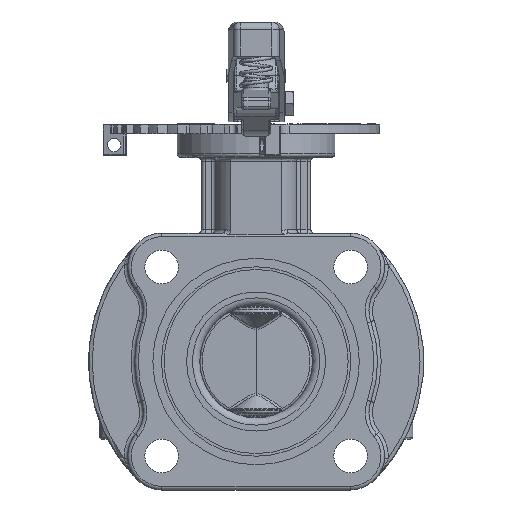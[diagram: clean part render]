
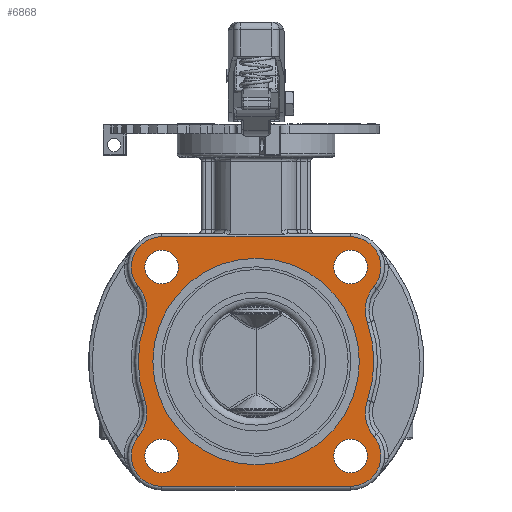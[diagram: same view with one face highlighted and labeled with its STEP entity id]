
A CAD part, left-side view. The second image highlights one B-rep face of the part: STEP entity #6868.
In plain terms, the highlighted planar face has unit normal (-1, 0, 0).
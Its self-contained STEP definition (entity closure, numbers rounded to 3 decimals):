
#3099=CARTESIAN_POINT('',(-14.5,48.515,-30.914));
#3100=VERTEX_POINT('',#3099);
#3108=CARTESIAN_POINT('',(-14.5,45.809,-15.931));
#3109=VERTEX_POINT('',#3108);
#3110=CARTESIAN_POINT('',(-14.5,60.449,-21.023));
#3111=DIRECTION('',(-1.0,0.0,0.0));
#3112=DIRECTION('',(0.0,-0.984,-0.178));
#3113=AXIS2_PLACEMENT_3D('',#3110,#3111,#3112);
#3114=CIRCLE('',#3113,15.5);
#3115=EDGE_CURVE('',#3100,#3109,#3114,.T.);
#3141=CARTESIAN_POINT('',(-14.5,38.891,-51.391));
#3142=VERTEX_POINT('',#3141);
#3150=CARTESIAN_POINT('',(-14.5,38.891,-38.891));
#3151=DIRECTION('',(1.0,0.0,0.0));
#3152=DIRECTION('',(0.0,0.905,-0.425));
#3153=AXIS2_PLACEMENT_3D('',#3150,#3151,#3152);
#3154=CIRCLE('',#3153,12.5);
#3155=EDGE_CURVE('',#3142,#3100,#3154,.T.);
#3167=CARTESIAN_POINT('',(-14.5,-38.891,-51.391));
#3168=VERTEX_POINT('',#3167);
#3176=CARTESIAN_POINT('',(-14.5,-38.891,-51.391));
#3177=DIRECTION('',(0.0,1.0,0.0));
#3178=VECTOR('',#3177,77.782);
#3179=LINE('',#3176,#3178);
#3180=EDGE_CURVE('',#3168,#3142,#3179,.T.);
#3192=CARTESIAN_POINT('',(-14.5,-48.515,-30.914));
#3193=VERTEX_POINT('',#3192);
#3201=CARTESIAN_POINT('',(-14.5,-38.891,-38.891));
#3202=DIRECTION('',(1.0,0.0,0.0));
#3203=DIRECTION('',(0.0,-0.905,-0.425));
#3204=AXIS2_PLACEMENT_3D('',#3201,#3202,#3203);
#3205=CIRCLE('',#3204,12.5);
#3206=EDGE_CURVE('',#3193,#3168,#3205,.T.);
#3218=CARTESIAN_POINT('',(-14.5,-45.809,-15.931));
#3219=VERTEX_POINT('',#3218);
#3227=CARTESIAN_POINT('',(-14.5,-60.449,-21.023));
#3228=DIRECTION('',(-1.0,0.0,0.0));
#3229=DIRECTION('',(0.0,0.984,-0.178));
#3230=AXIS2_PLACEMENT_3D('',#3227,#3228,#3229);
#3231=CIRCLE('',#3230,15.5);
#3232=EDGE_CURVE('',#3219,#3193,#3231,.T.);
#3351=CARTESIAN_POINT('',(-14.5,38.891,-45.808));
#3352=VERTEX_POINT('',#3351);
#3353=CARTESIAN_POINT('',(-14.5,38.891,-38.891));
#3354=DIRECTION('',(1.0,0.0,0.0));
#3355=DIRECTION('',(0.0,0.0,-1.0));
#3356=AXIS2_PLACEMENT_3D('',#3353,#3354,#3355);
#3357=CIRCLE('',#3356,6.918);
#3358=EDGE_CURVE('',#3352,#3352,#3357,.T.);
#3450=CARTESIAN_POINT('',(-14.5,-38.891,-45.808));
#3451=VERTEX_POINT('',#3450);
#3452=CARTESIAN_POINT('',(-14.5,-38.891,-38.891));
#3453=DIRECTION('',(1.0,0.0,0.0));
#3454=DIRECTION('',(0.0,0.0,-1.0));
#3455=AXIS2_PLACEMENT_3D('',#3452,#3453,#3454);
#3456=CIRCLE('',#3455,6.918);
#3457=EDGE_CURVE('',#3451,#3451,#3456,.T.);
#3999=CARTESIAN_POINT('',(-14.5,38.891,51.391));
#4000=VERTEX_POINT('',#3999);
#4008=CARTESIAN_POINT('',(-14.5,-38.891,51.391));
#4009=VERTEX_POINT('',#4008);
#4010=CARTESIAN_POINT('',(-14.5,38.891,51.391));
#4011=DIRECTION('',(0.0,-1.0,0.0));
#4012=VECTOR('',#4011,77.782);
#4013=LINE('',#4010,#4012);
#4014=EDGE_CURVE('',#4000,#4009,#4013,.T.);
#6653=CARTESIAN_POINT('',(-14.5,-45.809,15.931));
#6654=VERTEX_POINT('',#6653);
#6662=CARTESIAN_POINT('',(-14.5,0.,0.));
#6663=DIRECTION('',(1.0,0.0,0.0));
#6664=DIRECTION('',(0.0,-0.986,0.167));
#6665=AXIS2_PLACEMENT_3D('',#6662,#6663,#6664);
#6666=CIRCLE('',#6665,48.5);
#6667=EDGE_CURVE('',#6654,#3219,#6666,.T.);
#6678=CARTESIAN_POINT('',(-14.5,-48.515,30.914));
#6679=VERTEX_POINT('',#6678);
#6687=CARTESIAN_POINT('',(-14.5,-60.449,21.023));
#6688=DIRECTION('',(-1.0,0.0,0.0));
#6689=DIRECTION('',(0.0,0.984,0.178));
#6690=AXIS2_PLACEMENT_3D('',#6687,#6688,#6689);
#6691=CIRCLE('',#6690,15.5);
#6692=EDGE_CURVE('',#6679,#6654,#6691,.T.);
#6711=CARTESIAN_POINT('',(-14.5,-38.891,38.891));
#6712=DIRECTION('',(1.0,0.0,0.0));
#6713=DIRECTION('',(0.0,-0.905,0.425));
#6714=AXIS2_PLACEMENT_3D('',#6711,#6712,#6713);
#6715=CIRCLE('',#6714,12.5);
#6716=EDGE_CURVE('',#4009,#6679,#6715,.T.);
#6728=CARTESIAN_POINT('',(-14.5,48.515,30.914));
#6729=VERTEX_POINT('',#6728);
#6737=CARTESIAN_POINT('',(-14.5,38.891,38.891));
#6738=DIRECTION('',(1.0,0.0,0.0));
#6739=DIRECTION('',(0.0,0.905,0.425));
#6740=AXIS2_PLACEMENT_3D('',#6737,#6738,#6739);
#6741=CIRCLE('',#6740,12.5);
#6742=EDGE_CURVE('',#6729,#4000,#6741,.T.);
#6754=CARTESIAN_POINT('',(-14.5,45.809,15.931));
#6755=VERTEX_POINT('',#6754);
#6763=CARTESIAN_POINT('',(-14.5,60.449,21.023));
#6764=DIRECTION('',(-1.0,0.0,0.0));
#6765=DIRECTION('',(0.0,-0.984,0.178));
#6766=AXIS2_PLACEMENT_3D('',#6763,#6764,#6765);
#6767=CIRCLE('',#6766,15.5);
#6768=EDGE_CURVE('',#6755,#6729,#6767,.T.);
#6780=CARTESIAN_POINT('',(-14.5,0.,0.));
#6781=DIRECTION('',(1.0,0.0,0.0));
#6782=DIRECTION('',(0.0,0.986,0.167));
#6783=AXIS2_PLACEMENT_3D('',#6780,#6781,#6782);
#6784=CIRCLE('',#6783,48.5);
#6785=EDGE_CURVE('',#3109,#6755,#6784,.T.);
#6810=CARTESIAN_POINT('',(-14.5,0.,28.571));
#6811=DIRECTION('',(1.0,0.0,0.0));
#6812=DIRECTION('',(0.0,0.0,-1.0));
#6813=AXIS2_PLACEMENT_3D('',#6810,#6811,#6812);
#6814=PLANE('',#6813);
#6815=ORIENTED_EDGE('',*,*,#6667,.F.);
#6816=ORIENTED_EDGE('',*,*,#6692,.F.);
#6817=ORIENTED_EDGE('',*,*,#6716,.F.);
#6818=ORIENTED_EDGE('',*,*,#4014,.F.);
#6819=ORIENTED_EDGE('',*,*,#6742,.F.);
#6820=ORIENTED_EDGE('',*,*,#6768,.F.);
#6821=ORIENTED_EDGE('',*,*,#6785,.F.);
#6822=ORIENTED_EDGE('',*,*,#3115,.F.);
#6823=ORIENTED_EDGE('',*,*,#3155,.F.);
#6824=ORIENTED_EDGE('',*,*,#3180,.F.);
#6825=ORIENTED_EDGE('',*,*,#3206,.F.);
#6826=ORIENTED_EDGE('',*,*,#3232,.F.);
#6827=EDGE_LOOP('',(#6815,#6816,#6817,#6818,#6819,#6820,#6821,#6822,#6823,#6824,#6825,#6826));
#6828=FACE_OUTER_BOUND('',#6827,.T.);
#6829=ORIENTED_EDGE('',*,*,#3457,.T.);
#6830=EDGE_LOOP('',(#6829));
#6831=FACE_BOUND('',#6830,.T.);
#6832=ORIENTED_EDGE('',*,*,#3358,.T.);
#6833=EDGE_LOOP('',(#6832));
#6834=FACE_BOUND('',#6833,.T.);
#6835=CARTESIAN_POINT('',(-14.5,-42.5,0.));
#6836=VERTEX_POINT('',#6835);
#6837=CARTESIAN_POINT('',(-14.5,0.,0.));
#6838=DIRECTION('',(-1.0,0.0,0.0));
#6839=DIRECTION('',(0.0,1.0,0.0));
#6840=AXIS2_PLACEMENT_3D('',#6837,#6838,#6839);
#6841=CIRCLE('',#6840,42.5);
#6842=EDGE_CURVE('',#6836,#6836,#6841,.T.);
#6843=ORIENTED_EDGE('',*,*,#6842,.F.);
#6844=EDGE_LOOP('',(#6843));
#6845=FACE_BOUND('',#6844,.T.);
#6846=CARTESIAN_POINT('',(-14.5,38.891,31.973));
#6847=VERTEX_POINT('',#6846);
#6848=CARTESIAN_POINT('',(-14.5,38.891,38.891));
#6849=DIRECTION('',(1.0,0.0,0.0));
#6850=DIRECTION('',(0.0,0.0,1.0));
#6851=AXIS2_PLACEMENT_3D('',#6848,#6849,#6850);
#6852=CIRCLE('',#6851,6.918);
#6853=EDGE_CURVE('',#6847,#6847,#6852,.T.);
#6854=ORIENTED_EDGE('',*,*,#6853,.T.);
#6855=EDGE_LOOP('',(#6854));
#6856=FACE_BOUND('',#6855,.T.);
#6857=CARTESIAN_POINT('',(-14.5,-38.891,31.973));
#6858=VERTEX_POINT('',#6857);
#6859=CARTESIAN_POINT('',(-14.5,-38.891,38.891));
#6860=DIRECTION('',(1.0,0.0,0.0));
#6861=DIRECTION('',(0.0,0.0,1.0));
#6862=AXIS2_PLACEMENT_3D('',#6859,#6860,#6861);
#6863=CIRCLE('',#6862,6.918);
#6864=EDGE_CURVE('',#6858,#6858,#6863,.T.);
#6865=ORIENTED_EDGE('',*,*,#6864,.T.);
#6866=EDGE_LOOP('',(#6865));
#6867=FACE_BOUND('',#6866,.T.);
#6868=ADVANCED_FACE('',(#6828,#6831,#6834,#6845,#6856,#6867),#6814,.F.);
